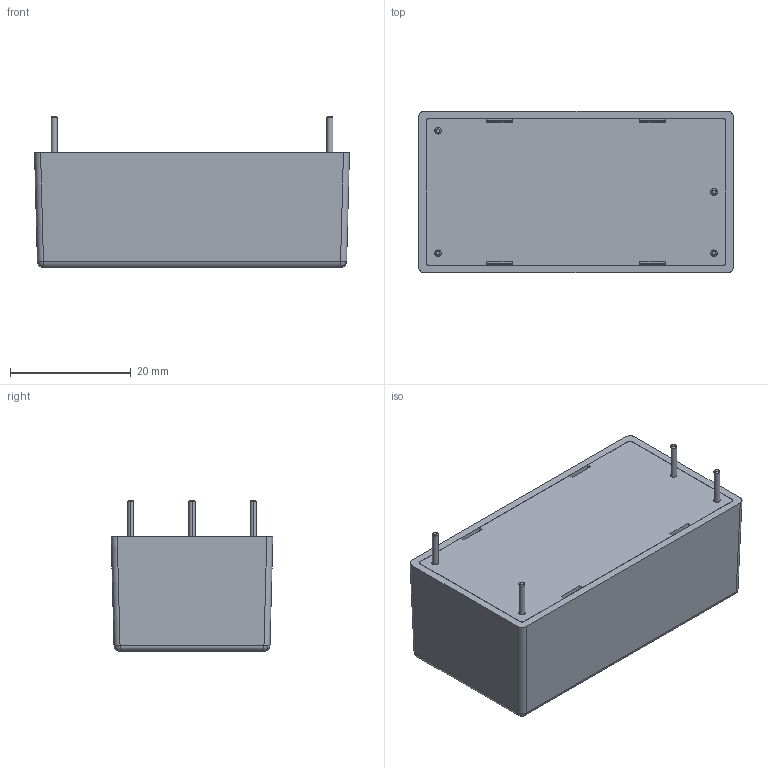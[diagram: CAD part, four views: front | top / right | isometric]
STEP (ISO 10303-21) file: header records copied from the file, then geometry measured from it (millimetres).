
FILE_DESCRIPTION (( 'STEP AP203' ), '1' );
FILE_NAME ('TMF 10.STEP', '2016-11-07T15:40:29', ( '' ), ( '' ), 'SwSTEP 2.0', 'SolidWorks 2013', '' );
FILE_SCHEMA (( 'CONFIG_CONTROL_DESIGN' ));
Length unit declared in the file: millimetre
Products named in the file (1): TMF 10
Bounding box: 52.2 x 26.8 x 25 mm (x, y, z)
Surface area: 7604.3 mm2 (no closed solid volume)
Topology: 0 solids, 6 shells, 74 faces, 214 edges, 140 vertices
Faces by surface type: plane 30, cylinder 28, bspline 16
Entity records: 2616 total; most frequent: CARTESIAN_POINT 697, DIRECTION 396, ORIENTED_EDGE 352, EDGE_CURVE 206, AXIS2_PLACEMENT_3D 143, VERTEX_POINT 140, LINE 110, VECTOR 110
